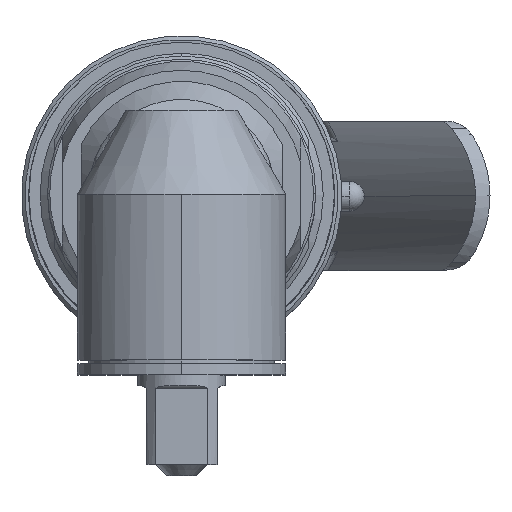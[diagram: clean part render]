
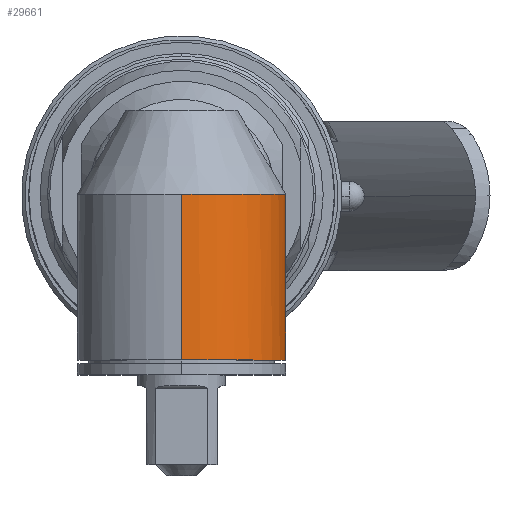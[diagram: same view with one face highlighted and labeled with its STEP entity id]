
A CAD part, top view. The second image highlights one B-rep face of the part: STEP entity #29661.
In plain terms, the highlighted cylindrical face has radius 14 mm (diameter 28 mm), a partial arc.
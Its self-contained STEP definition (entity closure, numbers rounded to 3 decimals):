
#9419 = DIRECTION ( 'NONE',  ( 0., 1., 0. ) ) ;
#9605 = CARTESIAN_POINT ( 'NONE',  ( 1.357, -18., -14. ) ) ;
#9606 = CARTESIAN_POINT ( 'NONE',  ( 0., -18., -14. ) ) ;
#9608 =( BOUNDED_CURVE ( )  B_SPLINE_CURVE ( 3, ( #9606, #9605, #9669, #9668 ),
 .UNSPECIFIED., .F., .F. ) 
 B_SPLINE_CURVE_WITH_KNOTS ( ( 4, 4 ),
 ( 0., 0.29 ),
 .UNSPECIFIED. ) 
 CURVE ( )  GEOMETRIC_REPRESENTATION_ITEM ( )  RATIONAL_B_SPLINE_CURVE ( ( 1., 0.993, 0.993, 1. ) ) 
 REPRESENTATION_ITEM ( '' )  );
#9609 = LINE ( 'NONE', #9667, #9666 ) ;
#9610 = CARTESIAN_POINT ( 'NONE',  ( 4., -18.337, -13.416 ) ) ;
#9611 = CARTESIAN_POINT ( 'NONE',  ( 0., -18., -14. ) ) ;
#9612 = DIRECTION ( 'NONE',  ( 0., 1., 0. ) ) ;
#9613 = VECTOR ( 'NONE', #9612, 1000. ) ;
#9614 = CARTESIAN_POINT ( 'NONE',  ( 0., 18.453, -14. ) ) ;
#9615 = LINE ( 'NONE', #9614, #9613 ) ;
#9638 = CARTESIAN_POINT ( 'NONE',  ( 11.31, -5.357, -8.264 ) ) ;
#9639 = CARTESIAN_POINT ( 'NONE',  ( 10.736, -6.432, -8.998 ) ) ;
#9640 = CARTESIAN_POINT ( 'NONE',  ( 10.413, -6.941, -9.372 ) ) ;
#9641 = CARTESIAN_POINT ( 'NONE',  ( 9.701, -7.906, -10.107 ) ) ;
#9642 = CARTESIAN_POINT ( 'NONE',  ( 9.31, -8.363, -10.471 ) ) ;
#9643 = CARTESIAN_POINT ( 'NONE',  ( 8.666, -9.014, -10.999 ) ) ;
#9644 = CARTESIAN_POINT ( 'NONE',  ( 8.441, -9.225, -11.173 ) ) ;
#9645 = CARTESIAN_POINT ( 'NONE',  ( 7.971, -9.634, -11.513 ) ) ;
#9646 = CARTESIAN_POINT ( 'NONE',  ( 7.725, -9.833, -11.68 ) ) ;
#9647 = CARTESIAN_POINT ( 'NONE',  ( 6.964, -10.399, -12.16 ) ) ;
#9648 = CARTESIAN_POINT ( 'NONE',  ( 6.424, -10.743, -12.455 ) ) ;
#9649 = CARTESIAN_POINT ( 'NONE',  ( 5.558, -11.201, -12.853 ) ) ;
#9657 = CARTESIAN_POINT ( 'NONE',  ( 5.26, -11.345, -12.979 ) ) ;
#9658 = CARTESIAN_POINT ( 'NONE',  ( 4.642, -11.611, -13.212 ) ) ;
#9659 = CARTESIAN_POINT ( 'NONE',  ( 4.323, -11.734, -13.32 ) ) ;
#9660 = CARTESIAN_POINT ( 'NONE',  ( 4., -11.843, -13.416 ) ) ;
#9661 = CARTESIAN_POINT ( 'NONE',  ( 12.497, -0.258, -6.31 ) ) ;
#9662 = B_SPLINE_CURVE_WITH_KNOTS ( 'NONE', 3,
 ( #9660, #9659, #9658, #9657, #9649, #9648, #9647, #9646, #9645, #9644, #9643, #9642, #9641, #9640, #9639, #9638, #9705, #9704, #9703, #9702, #9701, #9700, #9699, #9698, #9697, #9696 ),
 .UNSPECIFIED., .F., .F.,
 ( 4, 2, 2, 2, 2, 2, 2, 2, 2, 2, 2, 2, 4 ),
 ( 0.025, 0.026, 0.027, 0.029, 0.03, 0.032, 0.034, 0.036, 0.038, 0.039, 0.04, 0.041, 0.042 ),
 .UNSPECIFIED. ) ;
#9663 = CARTESIAN_POINT ( 'NONE',  ( 0., -0.258, 14. ) ) ;
#9664 = CARTESIAN_POINT ( 'NONE',  ( 4., -11.843, -13.416 ) ) ;
#9665 = DIRECTION ( 'NONE',  ( 0., -1., 0. ) ) ;
#9666 = VECTOR ( 'NONE', #9665, 1000. ) ;
#9667 = CARTESIAN_POINT ( 'NONE',  ( 4., 18.453, -13.416 ) ) ;
#9668 = CARTESIAN_POINT ( 'NONE',  ( 4., -18.337, -13.416 ) ) ;
#9669 = CARTESIAN_POINT ( 'NONE',  ( 2.7, -18.113, -13.804 ) ) ;
#9670 = AXIS2_PLACEMENT_3D ( 'NONE', #9678, #9419, #9731 ) ;
#9671 = CIRCLE ( 'NONE', #9670, 14. ) ;
#9674 = DIRECTION ( 'NONE',  ( 0., 0., 1. ) ) ;
#9675 = DIRECTION ( 'NONE',  ( 0., 1., 0. ) ) ;
#9676 = CARTESIAN_POINT ( 'NONE',  ( 0., 18.453, 0. ) ) ;
#9677 = AXIS2_PLACEMENT_3D ( 'NONE', #9676, #9675, #9674 ) ;
#9678 = CARTESIAN_POINT ( 'NONE',  ( 0., -22.5, 0. ) ) ;
#9679 = CYLINDRICAL_SURFACE ( 'NONE', #9677, 14. ) ;
#9680 = FACE_OUTER_BOUND ( 'NONE', #29662, .T. ) ;
#9696 = CARTESIAN_POINT ( 'NONE',  ( 12.497, -0.258, -6.31 ) ) ;
#9697 = CARTESIAN_POINT ( 'NONE',  ( 12.49, -0.617, -6.325 ) ) ;
#9698 = CARTESIAN_POINT ( 'NONE',  ( 12.467, -0.974, -6.371 ) ) ;
#9699 = CARTESIAN_POINT ( 'NONE',  ( 12.393, -1.666, -6.512 ) ) ;
#9700 = CARTESIAN_POINT ( 'NONE',  ( 12.343, -2.002, -6.608 ) ) ;
#9701 = CARTESIAN_POINT ( 'NONE',  ( 12.218, -2.66, -6.836 ) ) ;
#9702 = CARTESIAN_POINT ( 'NONE',  ( 12.143, -2.984, -6.97 ) ) ;
#9703 = CARTESIAN_POINT ( 'NONE',  ( 11.972, -3.611, -7.26 ) ) ;
#9704 = CARTESIAN_POINT ( 'NONE',  ( 11.876, -3.914, -7.417 ) ) ;
#9705 = CARTESIAN_POINT ( 'NONE',  ( 11.559, -4.799, -7.908 ) ) ;
#9729 = CARTESIAN_POINT ( 'NONE',  ( 0., -22.5, -14. ) ) ;
#9730 = CARTESIAN_POINT ( 'NONE',  ( 0., -22.5, 14. ) ) ;
#9731 = DIRECTION ( 'NONE',  ( 0., 0., 1. ) ) ;
#9766 = CIRCLE ( 'NONE', #9832, 14. ) ;
#9771 = CARTESIAN_POINT ( 'NONE',  ( 0., -0.258, 0. ) ) ;
#9826 = DIRECTION ( 'NONE',  ( 0., 1., 0. ) ) ;
#9827 = VECTOR ( 'NONE', #9826, 1000. ) ;
#9828 = CARTESIAN_POINT ( 'NONE',  ( 0., 18.453, 14. ) ) ;
#9829 = LINE ( 'NONE', #9828, #9827 ) ;
#9830 = DIRECTION ( 'NONE',  ( 0., 0., 1. ) ) ;
#9831 = DIRECTION ( 'NONE',  ( 0., 1., 0. ) ) ;
#9832 = AXIS2_PLACEMENT_3D ( 'NONE', #9771, #9831, #9830 ) ;
#29636 = ORIENTED_EDGE ( 'NONE', *, *, #29637, .T. ) ;
#29637 = EDGE_CURVE ( 'NONE', #29666, #29638, #9615, .T. ) ;
#29638 = VERTEX_POINT ( 'NONE', #9611 ) ;
#29639 = ORIENTED_EDGE ( 'NONE', *, *, #29640, .T. ) ;
#29640 = EDGE_CURVE ( 'NONE', #29638, #29641, #9608, .T. ) ;
#29641 = VERTEX_POINT ( 'NONE', #9610 ) ;
#29642 = ORIENTED_EDGE ( 'NONE', *, *, #29643, .F. ) ;
#29643 = EDGE_CURVE ( 'NONE', #29644, #29641, #9609, .T. ) ;
#29644 = VERTEX_POINT ( 'NONE', #9664 ) ;
#29645 = ORIENTED_EDGE ( 'NONE', *, *, #29646, .T. ) ;
#29646 = EDGE_CURVE ( 'NONE', #29644, #29647, #9662, .T. ) ;
#29647 = VERTEX_POINT ( 'NONE', #9661 ) ;
#29648 = ORIENTED_EDGE ( 'NONE', *, *, #29708, .F. ) ;
#29649 = VERTEX_POINT ( 'NONE', #9663 ) ;
#29661 = ADVANCED_FACE ( 'NONE', ( #9680 ), #9679, .T. ) ;
#29662 = EDGE_LOOP ( 'NONE', ( #29663, #29636, #29639, #29642, #29645, #29648, #29709 ) ) ;
#29663 = ORIENTED_EDGE ( 'NONE', *, *, #29664, .T. ) ;
#29664 = EDGE_CURVE ( 'NONE', #29665, #29666, #9671, .T. ) ;
#29665 = VERTEX_POINT ( 'NONE', #9730 ) ;
#29666 = VERTEX_POINT ( 'NONE', #9729 ) ;
#29708 = EDGE_CURVE ( 'NONE', #29649, #29647, #9766, .T. ) ;
#29709 = ORIENTED_EDGE ( 'NONE', *, *, #29710, .F. ) ;
#29710 = EDGE_CURVE ( 'NONE', #29665, #29649, #9829, .T. ) ;
